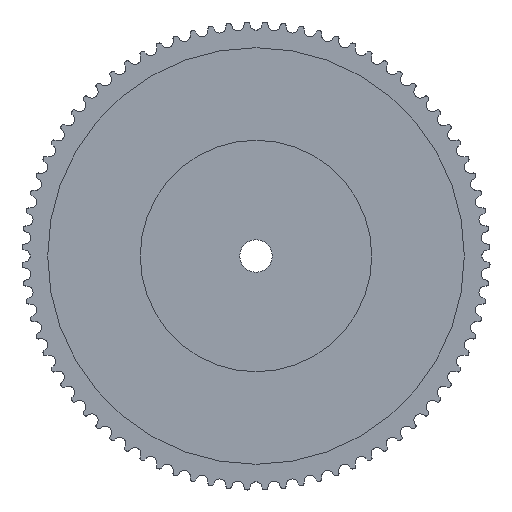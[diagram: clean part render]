
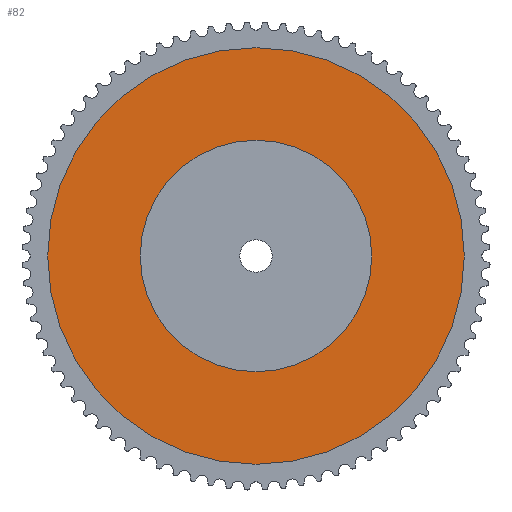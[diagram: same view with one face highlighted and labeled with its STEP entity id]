
A CAD part, left-side view. The second image highlights one B-rep face of the part: STEP entity #82.
In plain terms, the highlighted planar face has unit normal (-1, 0, 0).
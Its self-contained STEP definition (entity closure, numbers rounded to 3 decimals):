
#82 = ADVANCED_FACE( '', ( #585, #586 ), #587, .F. );
#585 = FACE_OUTER_BOUND( '', #1578, .T. );
#586 = FACE_BOUND( '', #1579, .T. );
#587 = PLANE( '', #1580 );
#1578 = EDGE_LOOP( '', ( #3552 ) );
#1579 = EDGE_LOOP( '', ( #3553 ) );
#1580 = AXIS2_PLACEMENT_3D( '', #3554, #3555, #3556 );
#3552 = ORIENTED_EDGE( '', *, *, #7895, .F. );
#3553 = ORIENTED_EDGE( '', *, *, #7896, .T. );
#3554 = CARTESIAN_POINT( '', ( 12.667, 50., 0. ) );
#3555 = DIRECTION( '', ( 1., 0., 0. ) );
#3556 = DIRECTION( '', ( 0., 0., -1. ) );
#7895 = EDGE_CURVE( '', #10308, #10308, #10309, .T. );
#7896 = EDGE_CURVE( '', #10310, #10310, #10311, .T. );
#10308 = VERTEX_POINT( '', #13054 );
#10309 = CIRCLE( '', #13055, 90. );
#10310 = VERTEX_POINT( '', #13056 );
#10311 = CIRCLE( '', #13057, 50. );
#13054 = CARTESIAN_POINT( '', ( 12.667, 0., -90. ) );
#13055 = AXIS2_PLACEMENT_3D( '', #16271, #16272, #16273 );
#13056 = CARTESIAN_POINT( '', ( 12.667, 0., -50. ) );
#13057 = AXIS2_PLACEMENT_3D( '', #16274, #16275, #16276 );
#16271 = CARTESIAN_POINT( '', ( 12.667, 0., 0. ) );
#16272 = DIRECTION( '', ( 1., 0., 0. ) );
#16273 = DIRECTION( '', ( 0., 0., -1. ) );
#16274 = CARTESIAN_POINT( '', ( 12.667, 0., 0. ) );
#16275 = DIRECTION( '', ( 1., 0., 0. ) );
#16276 = DIRECTION( '', ( 0., 0., -1. ) );
